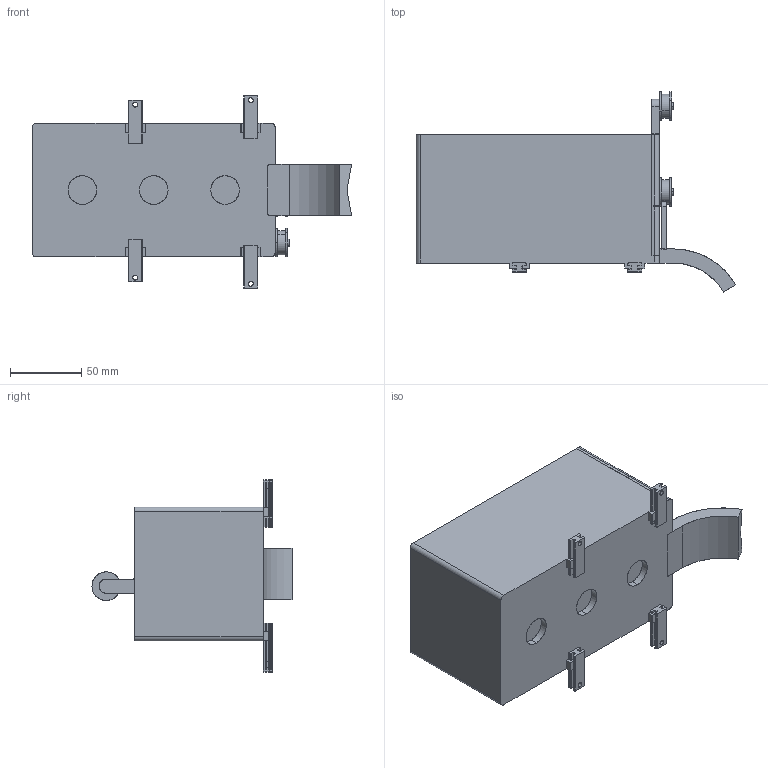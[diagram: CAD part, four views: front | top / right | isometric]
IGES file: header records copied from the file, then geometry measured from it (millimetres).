
Start section: SolidWorks IGES file using analytic representation for surfaces
Global section: file name: E:\Studium\I4.0\fts\Kleine Bauteile\insgesamt.IGS; native system: SolidWorks 2013; preprocessor: SolidWorks 2013; author: Ludwig Jiawei Luo; date: 180202.213516; units: millimetre
Bounding box: 223.61 x 140.1 x 134.51 mm (x, y, z)
Surface area: 187621.5 mm2 (no closed solid volume)
Topology: 0 solids, 0 shells, 528 faces, 5139 edges, 5139 vertices
Faces by surface type: bspline 304, revolution 224
